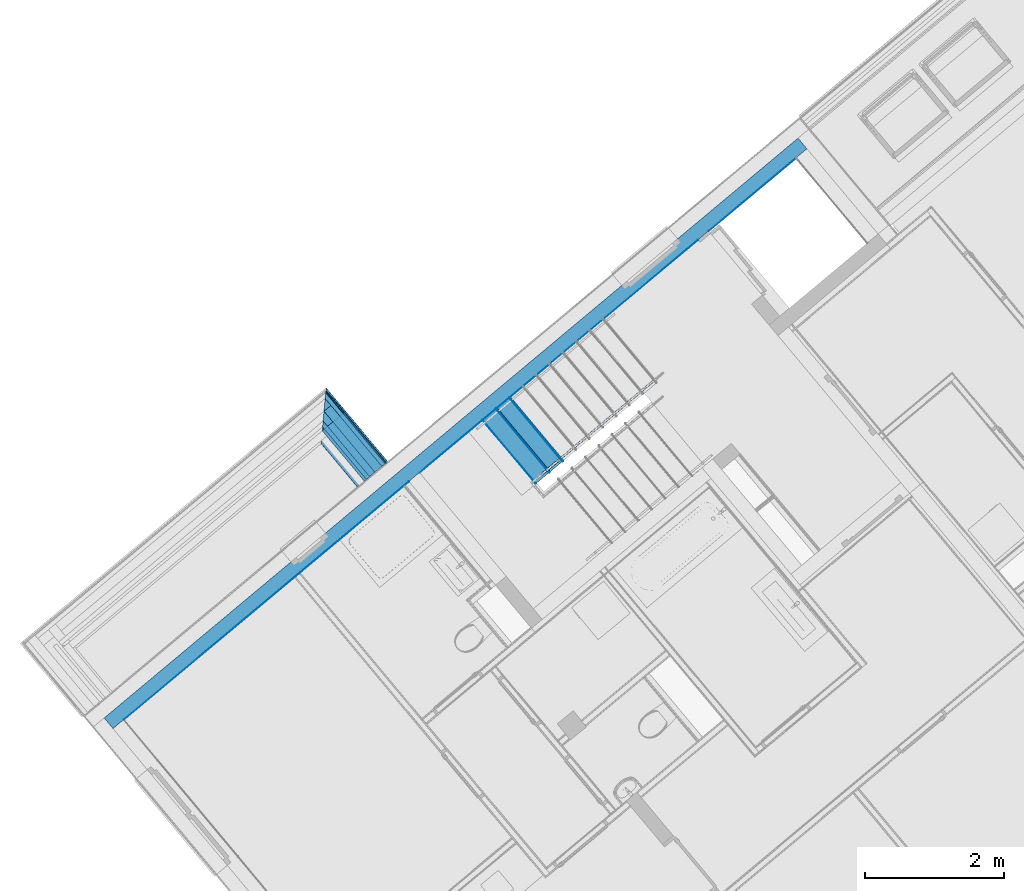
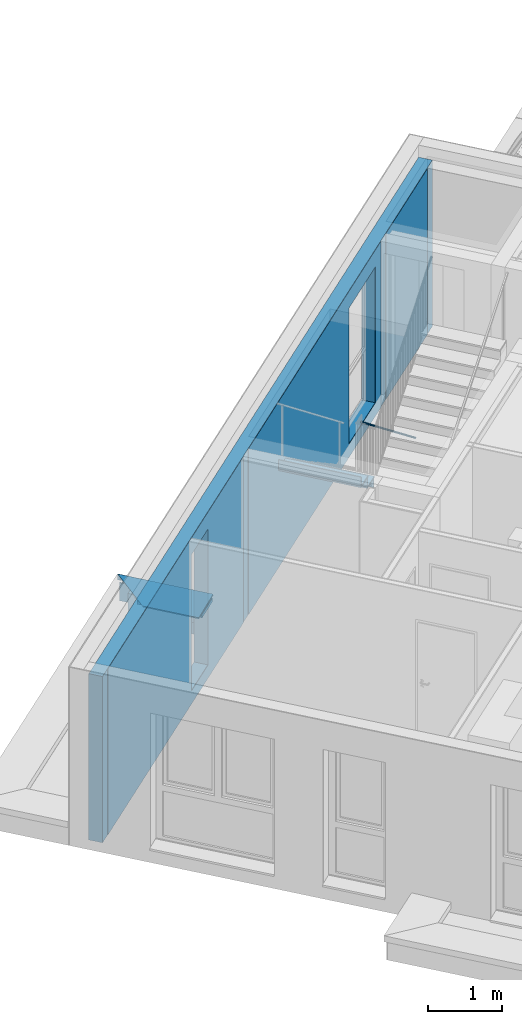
# One storey, part 32 of 58: 16 building element parts, 2 openings, 4 elements without a shape of their own.
"""IFC4 building model written with IfcOpenShell, lengths in metres."""

import ifcopenshell
import ifcopenshell.guid

model = None  # the IFC model being written
_history = None  # IfcOwnerHistory: only IFC2X3 demands one
_inside = {}  # id of a spatial element -> (the spatial element, [elements in it])
_under = {}  # id of a project, library or spatial element -> (it, [spatial elements below it])
_declared = {}  # id of a project -> (the project, [libraries it declares])
_typed = {}  # id of a type object -> (the type object, [elements of that type])
_made_of = {}  # id of a material, layer set ... -> (it, [elements and type objects made of it])


def new_model(schema):
    """Start an empty IFC model of exactly this schema.

    Asked for "IFC4X3", IfcOpenShell would pick the latest addendum, in which some entities
    have other attributes; the version numbers below select the first issue.
    IFC2X3 requires an IfcOwnerHistory on every rooted entity: one is made here for all.
    """
    global model, _history
    if schema == "IFC4X3":
        model = ifcopenshell.file(schema_version=(4, 3, 0, 0))
    else:
        model = ifcopenshell.file(schema=schema)
    _inside.clear()
    _under.clear()
    _declared.clear()
    _typed.clear()
    _made_of.clear()
    _history = None
    if model.schema == "IFC2X3":
        org = make("IfcOrganization", Name="unknown")
        user = make(
            "IfcPersonAndOrganization",
            ThePerson=make("IfcPerson", FamilyName="unknown"),
            TheOrganization=org,
        )
        app = make(
            "IfcApplication",
            ApplicationDeveloper=org,
            Version="unknown",
            ApplicationFullName="unknown",
            ApplicationIdentifier="unknown",
        )
        _history = make(
            "IfcOwnerHistory",
            OwningUser=user,
            OwningApplication=app,
            ChangeAction="ADDED",
            CreationDate=0,
        )
    return model


def make(cls, **values):
    """One entity of the class cls with the attributes given. An attribute that is None is left unset."""
    return model.create_entity(
        cls, **{name: value for name, value in values.items() if value is not None}
    )


def entity(cls, *values):
    """Any entity or typed value of the class cls, its attributes in the order of the schema. None: left unset."""
    e = model.create_entity(cls)
    for i, value in enumerate(values):
        if value is not None:
            e[i] = value
    return e


def rooted(cls, **values):
    """An entity with a GlobalId (a new one), such as an element, a storey or a relation."""
    return make(cls, GlobalId=ifcopenshell.guid.new(), OwnerHistory=_history, **values)


def si_unit(unit_type, name, prefix=None):
    """IfcSIUnit, for example si_unit("LENGTHUNIT", "METRE", prefix="MILLI")."""
    return make("IfcSIUnit", UnitType=unit_type, Prefix=prefix, Name=name)


def converted_unit(unit_type, name, factor, base, dimensions=None, offset=None):
    """IfcConversionBasedUnit, such as the inch: factor (a typed value) times the base unit."""
    return make(
        "IfcConversionBasedUnit"
        if offset is None
        else "IfcConversionBasedUnitWithOffset",
        ConversionOffset=offset,
        Dimensions=None
        if dimensions is None
        else entity("IfcDimensionalExponents", *dimensions),
        UnitType=unit_type,
        Name=name,
        ConversionFactor=make(
            "IfcMeasureWithUnit", ValueComponent=factor, UnitComponent=base
        ),
    )


def derived_unit(unit_type, elements):
    """IfcDerivedUnit: a product of units, each with its exponent."""
    return make(
        "IfcDerivedUnit",
        Elements=[
            make("IfcDerivedUnitElement", Unit=unit, Exponent=power)
            for unit, power in elements
        ],
        UnitType=unit_type,
    )


def assignment(units):
    """IfcUnitAssignment: the units of a project."""
    return None if units is None else make("IfcUnitAssignment", Units=units)


def point(xyz):
    """IfcCartesianPoint."""
    return None if xyz is None else make("IfcCartesianPoint", Coordinates=xyz)


def direction(xyz):
    """IfcDirection."""
    return None if xyz is None else make("IfcDirection", DirectionRatios=xyz)


def frame(location, z_axis=None, x_axis=None):
    """IfcAxis2Placement3D, a coordinate frame: its origin and axes. An axis left out is left unset."""
    return make(
        "IfcAxis2Placement3D",
        Location=point(location),
        Axis=direction(z_axis),
        RefDirection=direction(x_axis),
    )


def origin_with_axes():
    """The frame at (0, 0, 0) with the z axis (0, 0, 1) and the x axis (1, 0, 0) written out."""
    return frame((0.0, 0.0, 0.0), z_axis=(0.0, 0.0, 1.0), x_axis=(1.0, 0.0, 0.0))


def place(relative_to, where):
    """IfcLocalPlacement: puts the frame where relative to a parent placement (None: the world)."""
    return make(
        "IfcLocalPlacement", PlacementRelTo=relative_to, RelativePlacement=where
    )


def context(
    kind, dimensions, precision=None, world=None, true_north=None, identifier=None
):
    """IfcGeometricRepresentationContext, for example the 3D "Model" context."""
    return make(
        "IfcGeometricRepresentationContext",
        ContextIdentifier=identifier,
        ContextType=kind,
        CoordinateSpaceDimension=dimensions,
        Precision=precision,
        WorldCoordinateSystem=world,
        TrueNorth=true_north,
    )


def subcontext(parent, identifier, kind, view, scale=None):
    """IfcGeometricRepresentationSubContext, for example "Body" below "Model"."""
    return make(
        "IfcGeometricRepresentationSubContext",
        ContextIdentifier=identifier,
        ContextType=kind,
        ParentContext=parent,
        TargetScale=scale,
        TargetView=view,
    )


def project(units=None, contexts=None):
    """IfcProject with its units and contexts."""
    return rooted(
        "IfcProject",
        Name="project",
        RepresentationContexts=contexts,
        UnitsInContext=assignment(units),
    )


def spatial(cls, under=None, at=None, **own):
    """A site, building, storey or space (cls), placed at a placement, below another one or the project."""
    s = rooted(cls, ObjectPlacement=at, **own)
    if under is not None:
        _under.setdefault(under.id(), (under, []))[1].append(s)
    return s


def point_list(points):
    """IfcCartesianPointList2D or 3D."""
    cls = (
        "IfcCartesianPointList2D" if len(points[0]) == 2 else "IfcCartesianPointList3D"
    )
    return make(cls, CoordList=points)


def polygons(points, faces, closed=None, point_numbers=None):
    """IfcPolygonalFaceSet: a face is its outer loop, then its inner loops; points numbered from 1."""
    made = []
    for loops in faces:
        if len(loops) == 1:
            made.append(make("IfcIndexedPolygonalFace", CoordIndex=loops[0]))
        else:
            made.append(
                make(
                    "IfcIndexedPolygonalFaceWithVoids",
                    CoordIndex=loops[0],
                    InnerCoordIndices=loops[1:],
                )
            )
    return make(
        "IfcPolygonalFaceSet",
        Coordinates=point_list(points),
        Closed=closed,
        Faces=made,
        PnIndex=point_numbers,
    )


def shape(context_of_items, identifier, shape_type, items):
    """IfcShapeRepresentation: the items that make up one representation, for example the "Body"."""
    return make(
        "IfcShapeRepresentation",
        ContextOfItems=context_of_items,
        RepresentationIdentifier=identifier,
        RepresentationType=shape_type,
        Items=items,
    )


def material(Name=None, Category=None):
    """IfcMaterial."""
    return make("IfcMaterial", Name=Name, Category=Category)


def made_of(thing, what):
    """Note that an element or type object is made of a material, layer set ...; save() writes the relation."""
    if what is not None:
        _made_of.setdefault(what.id(), (what, []))[1].append(thing)
    return thing


def type_object(cls, material=None, **own):
    """A type object (cls), such as IfcWallType, which elements share."""
    return made_of(rooted(cls, **own), material)


def element(
    cls,
    number,
    at=None,
    inside=None,
    cuts=None,
    type_object=None,
    material=None,
    context=None,
    identifier="Body",
    shape_type=None,
    held_by="IfcProductDefinitionShape",
    body=None,
    shapes=None,
    **own,
):
    """One element of the class cls, such as IfcWall. Its Tag is "e" and its number.

    at: its placement. inside: the storey or other place that contains it. cuts: it is an
    opening in that element (IfcRelVoidsElement). A single representation is given by context,
    identifier, shape_type and body (its items); several are given by shapes. held_by: the class
    of the entity that holds the representations. save() writes the other relations.
    """
    e = rooted(cls, Tag="e%d" % number, ObjectPlacement=at, **own)
    if body is not None:
        shapes = [shape(context, identifier, shape_type, body)]
    if shapes is not None:
        e.Representation = make(held_by, Representations=shapes)
    if inside is not None:
        _inside.setdefault(inside.id(), (inside, []))[1].append(e)
    if cuts is not None:
        rooted(
            "IfcRelVoidsElement", RelatingBuildingElement=cuts, RelatedOpeningElement=e
        )
    if type_object is not None:
        _typed.setdefault(type_object.id(), (type_object, []))[1].append(e)
    return made_of(e, material)


def aggregate(whole, parts):
    """IfcRelAggregates: a whole, such as a stair, and the parts it consists of."""
    return rooted("IfcRelAggregates", RelatingObject=whole, RelatedObjects=parts)


def save(model, path):
    """Write the relations noted so far, then the file.

    IfcRelAggregates (storeys below a building ...), IfcRelContainedInSpatialStructure (elements
    in a storey), IfcRelDefinesByType, IfcRelAssociatesMaterial and IfcRelDeclares: one each for
    every whole, place, type object, material and project.
    """
    for whole, parts in _under.values():
        aggregate(whole, parts)
    for where, things in _inside.values():
        rooted(
            "IfcRelContainedInSpatialStructure",
            RelatedElements=things,
            RelatingStructure=where,
        )
    for kind, things in _typed.values():
        rooted("IfcRelDefinesByType", RelatedObjects=things, RelatingType=kind)
    for what, things in _made_of.values():
        rooted("IfcRelAssociatesMaterial", RelatedObjects=things, RelatingMaterial=what)
    for by, libraries in _declared.values():
        rooted("IfcRelDeclares", RelatingContext=by, RelatedDefinitions=libraries)
    model.write(path)


model = new_model("IFC4")

# Units and contexts
model_context = context("Model", 3, precision=1e-05, world=origin_with_axes(), true_north=direction((0.0, 1.0)))
body_context = subcontext(model_context, "Body", "Model", "MODEL_VIEW")
ifc_project = project(units=[si_unit("LENGTHUNIT", "METRE"), si_unit("AREAUNIT", "SQUARE_METRE"), si_unit("VOLUMEUNIT", "CUBIC_METRE"), converted_unit("PLANEANGLEUNIT", "DEGREE", entity("IfcPlaneAngleMeasure", 0.0174532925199), si_unit("PLANEANGLEUNIT", "RADIAN"), dimensions=[0, 0, 0, 0, 0, 0, 0]), converted_unit("TIMEUNIT", "Year", entity("IfcTimeMeasure", 31556926.0), si_unit("TIMEUNIT", "SECOND"), dimensions=[0, 0, 1, 0, 0, 0, 0]), si_unit("MASSUNIT", "GRAM", prefix="KILO"), si_unit("THERMODYNAMICTEMPERATUREUNIT", "DEGREE_CELSIUS"), si_unit("LUMINOUSINTENSITYUNIT", "LUMEN"), si_unit("ENERGYUNIT", "JOULE", prefix="MEGA"), derived_unit("THERMALCONDUCTANCEUNIT", [(si_unit("POWERUNIT", "WATT"), 1), (si_unit("LENGTHUNIT", "METRE"), -1), (si_unit("THERMODYNAMICTEMPERATUREUNIT", "KELVIN"), -1)]), derived_unit("SPECIFICHEATCAPACITYUNIT", [(si_unit("ENERGYUNIT", "JOULE"), 1), (si_unit("MASSUNIT", "GRAM", prefix="KILO"), -1), (si_unit("THERMODYNAMICTEMPERATUREUNIT", "KELVIN"), -1)]), derived_unit("MASSDENSITYUNIT", [(si_unit("MASSUNIT", "GRAM", prefix="KILO"), 1), (si_unit("VOLUMEUNIT", "CUBIC_METRE"), -1)])], contexts=[model_context])

# Site, building, storey
site_placement = place(None, frame((-0.00153261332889, -0.00661245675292, 0.0), z_axis=(0.0, 0.0, 1.0), x_axis=(1.0, 0.0, 0.0)))
site = spatial("IfcSite", under=ifc_project, at=site_placement, Name="Site", CompositionType="ELEMENT")
building_placement = place(site_placement, origin_with_axes())
building = spatial("IfcBuilding", under=site, at=building_placement, Name="Building", CompositionType="ELEMENT")
storey_placement = place(building_placement, frame((0.0, 0.0, 5.7), z_axis=(0.0, 0.0, 1.0), x_axis=(1.0, 0.0, 0.0)))
storey = spatial("IfcBuildingStorey", under=building, at=storey_placement, Name="DG1", CompositionType="ELEMENT", Elevation=5.7)

# Wall, openings, building element parts
wall_type_1 = type_object("IfcWallType", Name="AW EG 420", PredefinedType="NOTDEFINED")
wall_1_placement = place(storey_placement, frame((-8.68307438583, 19.0183290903, 0.0), z_axis=(0.0, 0.0, 1.0), x_axis=(0.767365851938, 0.641209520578, 0.0)))
wall_1 = element("IfcWall", 1, at=wall_1_placement, inside=storey, type_object=wall_type_1, Name="Wand-002", PredefinedType="NOTDEFINED")
opening_1_placement = place(wall_1_placement, frame((10.4679738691, 0.0, 0.22), z_axis=(0.0, 0.0, 1.0), x_axis=(1.0, 0.0, 0.0)))
element("IfcOpeningElement", 2, at=opening_1_placement, cuts=wall_1, Name="Fenster-001", context=body_context, identifier="Reference", shape_type="Tessellation", body=[
    polygons([(-0.525, -0.215, 0.0), (-0.525, -0.215, 2.26), (-0.525, 6.42322125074, 2.26), (-0.525, 6.42322125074, 0.0), (-0.525, -6.84322125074, 0.0), (-0.525, -6.84322125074, 2.26), (0.525, -0.215, 2.26), (0.525, 6.42322125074, 2.26), (0.525, -6.84322125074, 2.26), (0.525, 6.42322125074, 0.0), (0.525, -0.215, 0.0), (0.525, -6.84322125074, 0.0)], [[[1, 2, 3, 4]], [[2, 1, 5, 6]], [[7, 8, 3, 2, 6, 9]], [[8, 10, 4, 3]], [[1, 4, 10, 11, 12, 5]], [[6, 5, 12, 9]], [[7, 11, 10, 8]], [[11, 7, 9, 12]]], closed=True),
])
opening_2_placement = place(wall_1_placement, frame((4.0502535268, 0.0, 0.22), z_axis=(0.0, 0.0, 1.0), x_axis=(1.0, 0.0, 0.0)))
element("IfcOpeningElement", 3, at=opening_2_placement, cuts=wall_1, Name="Fenster-001", context=body_context, identifier="Reference", shape_type="Tessellation", body=[
    polygons([(-0.325, -0.215, 0.0), (-0.325, -0.215, 2.26), (-0.325, 6.42322125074, 2.26), (-0.325, 6.42322125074, 0.0), (-0.325, -6.84322125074, 0.0), (-0.325, -6.84322125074, 2.26), (0.325, -0.215, 2.26), (0.325, 6.42322125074, 2.26), (0.325, -6.84322125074, 2.26), (0.325, 6.42322125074, 0.0), (0.325, -0.215, 0.0), (0.325, -6.84322125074, 0.0)], [[[1, 2, 3, 4]], [[2, 1, 5, 6]], [[7, 8, 3, 2, 6, 9]], [[8, 10, 4, 3]], [[1, 4, 10, 11, 12, 5]], [[6, 5, 12, 9]], [[7, 11, 10, 8]], [[11, 7, 9, 12]]], closed=True),
])
ifc_material_1 = material(Name="Stahlbeton Wand")
building_element_part_1_placement = place(wall_1_placement, origin_with_axes())
building_element_part_1 = element("IfcBuildingElementPart", 4, at=building_element_part_1_placement, material=ifc_material_1, Name="Stahlbeton Wand", PredefinedType="NOTDEFINED", context=body_context, shape_type="Tessellation", body=[
    polygons([(0.215, -0.215, 0.0), (0.215, -0.215, 2.76), (13.2571716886, -0.215000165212, 2.76), (13.2571733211, -0.215, 0.0), (10.9929738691, -0.215, 0.22), (10.9929738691, -0.215, 2.48), (9.94297386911, -0.215, 2.48), (9.94297386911, -0.215, 0.22), (3.7252535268, -0.215, 0.22), (4.3752535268, -0.215, 0.22), (4.3752535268, -0.215, 2.48), (3.7252535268, -0.215, 2.48), (0.215, -0.415, 0.0), (0.215, -0.415, 2.76), (13.2571716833, -0.415, 2.76), (13.2571733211, -0.415, 0.0), (10.9929738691, -0.415, 2.48), (10.9929738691, -0.415, 0.22), (9.94297386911, -0.415, 2.48), (9.94297386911, -0.415, 0.22), (3.7252535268, -0.415, 0.22), (4.3752535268, -0.415, 0.22), (4.3752535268, -0.415, 2.48), (3.7252535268, -0.415, 2.48)], [[[1, 2, 3, 4], [5, 6, 7, 8], [9, 10, 11, 12]], [[1, 13, 14, 2]], [[14, 15, 3, 2]], [[16, 4, 3, 15]], [[13, 1, 4, 16]], [[17, 6, 5, 18]], [[19, 7, 6, 17]], [[20, 8, 7, 19]], [[18, 5, 8, 20]], [[21, 22, 10, 9]], [[22, 23, 11, 10]], [[23, 24, 12, 11]], [[24, 21, 9, 12]], [[16, 15, 14, 13], [19, 17, 18, 20], [21, 24, 23, 22]]], closed=True),
])
ifc_material_2 = material(Name="Zementputz")
building_element_part_2_placement = place(wall_1_placement, origin_with_axes())
building_element_part_2 = element("IfcBuildingElementPart", 5, at=building_element_part_2_placement, material=ifc_material_2, Name="Zementputz", PredefinedType="NOTDEFINED", context=body_context, shape_type="Tessellation", body=[
    polygons([(5.77520574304, -0.415, 2.76), (5.77520574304, -0.415, 0.0), (0.415, -0.415, 0.0), (0.415, -0.415, 2.76), (3.7252535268, -0.415, 0.22), (4.3752535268, -0.415, 0.22), (4.3752535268, -0.415, 2.48), (3.7252535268, -0.415, 2.48), (5.77520574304, -0.42, 0.0), (5.77520574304, -0.42, 2.76), (0.415, -0.42, 0.0), (0.415, -0.42, 2.76), (3.7252535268, -0.42, 0.22), (4.3752535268, -0.42, 0.22), (4.3752535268, -0.42, 2.48), (3.7252535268, -0.42, 2.48)], [[[1, 2, 3, 4], [5, 6, 7, 8]], [[9, 2, 1, 10]], [[11, 3, 2, 9]], [[4, 3, 11, 12]], [[1, 4, 12, 10]], [[13, 14, 6, 5]], [[14, 15, 7, 6]], [[15, 16, 8, 7]], [[16, 13, 5, 8]], [[11, 9, 10, 12], [13, 16, 15, 14]]], closed=True),
    polygons([(11.2076041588, -0.415, 0.0), (5.97520574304, -0.415, 0.0), (5.97520574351, -0.415, 2.76), (11.2076041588, -0.415, 2.76), (9.94297386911, -0.415, 0.22), (10.9929738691, -0.415, 0.22), (10.9929738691, -0.415, 2.48), (9.94297386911, -0.415, 2.48), (11.2076038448, -0.42, 0.0), (5.97520574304, -0.42, 0.0), (5.97520574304, -0.42, 2.76), (9.19449154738, -0.419999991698, 2.76), (11.2076038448, -0.42, 2.76), (9.94297386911, -0.419999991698, 0.22), (10.9929738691, -0.419999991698, 0.22), (10.9929738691, -0.419999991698, 2.48), (9.94297386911, -0.419999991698, 2.48)], [[[1, 2, 3, 4], [5, 6, 7, 8]], [[1, 9, 10, 2]], [[11, 3, 2, 10]], [[11, 12, 13, 4, 3]], [[1, 4, 13, 9]], [[14, 15, 6, 5]], [[15, 16, 7, 6]], [[16, 17, 8, 7]], [[17, 14, 5, 8]], [[10, 9, 13, 12, 11], [14, 17, 16, 15]]], closed=True),
    polygons([(13.0571733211, -0.415, 2.76), (13.0571733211, -0.42, 2.76), (13.0571733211, -0.42, 0.0), (13.0571733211, -0.415, 0.0), (13.0521733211, -0.42, 2.76), (11.4076067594, -0.415, 2.76), (11.4076038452, -0.42, 2.76), (11.4076038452, -0.42, 0.0), (11.4076041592, -0.415, 0.0)], [[[1, 2, 3, 4]], [[5, 2, 1, 6, 7]], [[5, 7, 8, 3, 2]], [[8, 9, 4, 3]], [[6, 1, 4, 9]], [[7, 6, 9, 8]]], closed=True),
])
aggregate(wall_1, [building_element_part_1, building_element_part_2])

# Railing, building element part
railing_type = type_object("IfcRailingType", Name="Geländerart", PredefinedType="NOTDEFINED")
railing_placement = place(storey_placement, frame((-0.398547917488, 23.8355657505, 0.05), z_axis=(0.0, 0.0, 1.0), x_axis=(1.0, 0.0, 0.0)))
railing = element("IfcRailing", 6, at=railing_placement, inside=storey, type_object=railing_type, Name="Geländer - 001", PredefinedType="NOTDEFINED")
ifc_material_3 = material(Name="BEKLEIDUNG")
building_element_part_3_placement = place(railing_placement, origin_with_axes())
building_element_part_3 = element("IfcBuildingElementPart", 7, at=building_element_part_3_placement, material=ifc_material_3, Name="BEKLEIDUNG", PredefinedType="NOTDEFINED", context=body_context, shape_type="Tessellation", body=[
    polygons([(-0.0295187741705, 0.0209453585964, 0.88817063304), (-0.0284358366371, 0.0221471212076, 0.890224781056), (-1.65968848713, -1.34078287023, 2.5475849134), (-1.66154123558, -1.34262781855, 2.54631289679), (-0.0308939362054, 0.0200933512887, 0.886116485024), (-0.0325195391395, 0.0196169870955, 0.884124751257), (-0.03434618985, 0.0195307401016, 0.88225594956), (-0.0363183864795, 0.0198372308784, 0.880566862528), (-0.0383762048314, 0.0205271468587, 0.879108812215), (-0.0404571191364, 0.0215795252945, 0.877926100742), (-0.0424979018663, 0.0229623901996, 0.877054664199), (-0.0444365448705, 0.0246337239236, 0.876520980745), (-0.0462141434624, 0.026542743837, 0.87634126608), (-0.0477766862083, 0.0286314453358, 0.876520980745), (-0.0490766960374, 0.030836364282, 0.877054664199), (-0.0500746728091, 0.0330905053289, 0.877926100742), (-0.050740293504, 0.0353253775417, 0.879108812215), (-0.0510533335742, 0.0374730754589, 0.880566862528), (-0.0510042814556, 0.0394683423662, 0.88225594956), (-0.0505946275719, 0.0412505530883, 0.884124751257), (-0.0498368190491, 0.0427655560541, 0.886116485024), (-0.0487538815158, 0.0439673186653, 0.88817063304), (-0.0473787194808, 0.0448193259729, 0.890224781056), (-0.0457531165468, 0.0452956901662, 0.892216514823), (-0.0439264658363, 0.04538193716, 0.89408531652), (-0.0419542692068, 0.0450754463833, 0.895774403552), (-0.0398964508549, 0.044385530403, 0.897232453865), (-0.0378155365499, 0.0433331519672, 0.898415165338), (-0.03577475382, 0.0419502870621, 0.899286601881), (-0.0338361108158, 0.0402789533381, 0.899820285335), (-0.0320585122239, 0.0383699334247, 0.9), (-0.030495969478, 0.0362812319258, 0.899820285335), (-0.0291959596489, 0.0340763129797, 0.899286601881), (-0.0281979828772, 0.0318221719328, 0.898415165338), (-0.0275323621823, 0.02958729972, 0.897232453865), (-0.0272193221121, 0.0274396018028, 0.895774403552), (-0.0272683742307, 0.0254443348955, 0.89408531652), (-0.0276780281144, 0.0236621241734, 0.892216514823), (-1.658184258, -1.33864422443, 2.54881828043), (-1.65707425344, -1.33627686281, 2.54997552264), (-1.65639220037, -1.33375271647, 2.55102147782), (-1.65615882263, -1.33114848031, 2.55192436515), (-1.65638121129, -1.32854328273, 2.55265675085), (-1.65705260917, -1.32601628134, 2.55319638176), (-1.6581526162, -1.3236442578, 2.55352686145), (-1.65964780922, -1.32149928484, 2.55363814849), (-1.66149275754, -1.31964653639, 2.55352686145), (-1.66363140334, -1.31814230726, 2.55319638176), (-1.66599876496, -1.31703230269, 2.55265675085), (-1.6685229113, -1.31635024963, 2.55192436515), (-1.67112714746, -1.31611687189, 2.55102147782), (-1.67373234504, -1.31633926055, 2.54997552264), (-1.67625934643, -1.31701065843, 2.54881828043), (-1.67863136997, -1.31811066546, 2.5475849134), (-1.68077634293, -1.31960585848, 2.54631289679), (-1.68262909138, -1.3214508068, 2.54504088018), (-1.68413332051, -1.3235894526, 2.54380751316), (-1.68524332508, -1.32595681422, 2.54265027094), (-1.68592537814, -1.32848096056, 2.54160431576), (-1.68615875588, -1.33108519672, 2.54070142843), (-1.68593636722, -1.3336903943, 2.53996904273), (-1.68526496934, -1.33621739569, 2.53942941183), (-1.68416496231, -1.33858941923, 2.53909893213), (-1.68266976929, -1.34073439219, 2.53898764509), (-1.68082482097, -1.34258714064, 2.53909893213), (-1.67868617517, -1.34409136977, 2.53942941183), (-1.67631881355, -1.34520137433, 2.53996904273), (-1.67379466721, -1.3458834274, 2.54070142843), (-1.67119043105, -1.34611680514, 2.54160431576), (-1.66858523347, -1.34589441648, 2.54265027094), (-1.66605823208, -1.3452230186, 2.54380751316), (-1.66368620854, -1.34412301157, 2.54504088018)], [[[1, 2, 3, 4]], [[1, 5, 6, 7, 8, 9, 10, 11, 12, 13, 14, 15, 16, 17, 18, 19, 20, 21, 22, 23, 24, 25, 26, 27, 28, 29, 30, 31, 32, 33, 34, 35, 36, 37, 38, 2]], [[2, 38, 39, 3]], [[4, 3, 39, 40, 41, 42, 43, 44, 45, 46, 47, 48, 49, 50, 51, 52, 53, 54, 55, 56, 57, 58, 59, 60, 61, 62, 63, 64, 65, 66, 67, 68, 69, 70, 71, 72]], [[5, 1, 4, 72]], [[6, 5, 72, 71]], [[7, 6, 71, 70]], [[8, 7, 70, 69]], [[9, 8, 69, 68]], [[10, 9, 68, 67]], [[11, 10, 67, 66]], [[12, 11, 66, 65]], [[13, 12, 65, 64]], [[14, 13, 64, 63]], [[15, 14, 63, 62]], [[16, 15, 62, 61]], [[17, 16, 61, 60]], [[18, 17, 60, 59]], [[19, 18, 59, 58]], [[20, 19, 58, 57]], [[21, 20, 57, 56]], [[22, 21, 56, 55]], [[23, 22, 55, 54]], [[24, 23, 54, 53]], [[25, 24, 53, 52]], [[26, 25, 52, 51]], [[27, 26, 51, 50]], [[28, 27, 50, 49]], [[29, 28, 49, 48]], [[30, 29, 48, 47]], [[31, 30, 47, 46]], [[32, 31, 46, 45]], [[33, 32, 45, 44]], [[34, 33, 44, 43]], [[35, 34, 43, 42]], [[36, 35, 42, 41]], [[37, 36, 41, 40]], [[38, 37, 40, 39]]], closed=True),
])
aggregate(railing, [building_element_part_3])

# Stair, building element parts
stair_type = type_object("IfcStairType", Name="Treppentyp", PredefinedType="NOTDEFINED")
stair_placement = place(storey_placement, frame((-0.972083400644, 24.9200947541, 0.05), z_axis=(0.0, 0.0, 1.0), x_axis=(1.0, 0.0, 0.0)))
stair = element("IfcStair", 8, at=stair_placement, inside=storey, type_object=stair_type, Name="Treppe - 001", PredefinedType="NOTDEFINED")
building_element_part_4_placement = place(stair_placement, origin_with_axes())
building_element_part_4 = element("IfcBuildingElementPart", 9, at=building_element_part_4_placement, material=ifc_material_3, Name="BEKLEIDUNG", PredefinedType="NOTDEFINED", context=body_context, shape_type="Tessellation", body=[
    polygons([(-1.55940773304, -1.30290275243, 1.39147058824), (-1.56708171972, -1.30931445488, 1.39147058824), (-0.797677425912, -2.23019285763, 1.39147058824), (-0.790003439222, -2.22378115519, 1.39147058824), (-1.55940773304, -1.30290275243, 1.23941176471), (-1.56708171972, -1.30931445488, 1.23941176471), (-0.797677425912, -2.23019285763, 1.23941176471), (-0.790003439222, -2.22378115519, 1.23941176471)], [[[1, 2, 3, 4]], [[1, 5, 6, 2]], [[2, 6, 7, 3]], [[4, 3, 7, 8]], [[5, 1, 4, 8]], [[6, 5, 8, 7]]], closed=True),
])
building_element_part_5_placement = place(stair_placement, origin_with_axes())
building_element_part_5 = element("IfcBuildingElementPart", 10, at=building_element_part_5_placement, material=ifc_material_3, Name="BEKLEIDUNG", PredefinedType="NOTDEFINED", context=body_context, shape_type="Tessellation", body=[
    polygons([(-1.75255458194, -1.46427912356, 1.56852941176), (-1.76022856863, -1.47069082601, 1.56852941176), (-0.990824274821, -2.39156922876, 1.56852941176), (-0.983150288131, -2.38515752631, 1.56852941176), (-1.75255458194, -1.46427912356, 1.41647058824), (-1.76022856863, -1.47069082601, 1.41647058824), (-0.990824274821, -2.39156922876, 1.41647058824), (-0.983150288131, -2.38515752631, 1.41647058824)], [[[1, 2, 3, 4]], [[1, 5, 6, 2]], [[2, 6, 7, 3]], [[4, 3, 7, 8]], [[5, 1, 4, 8]], [[6, 5, 8, 7]]], closed=True),
])
building_element_part_6_placement = place(stair_placement, origin_with_axes())
building_element_part_6 = element("IfcBuildingElementPart", 11, at=building_element_part_6_placement, material=ifc_material_3, Name="BEKLEIDUNG", PredefinedType="NOTDEFINED", context=body_context, shape_type="Tessellation", body=[
    polygons([(-1.94570143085, -1.62565549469, 1.74558823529), (-1.95337541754, -1.63206719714, 1.74558823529), (-1.18397112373, -2.55294559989, 1.74558823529), (-1.17629713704, -2.54653389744, 1.74558823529), (-1.94570143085, -1.62565549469, 1.59352941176), (-1.95337541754, -1.63206719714, 1.59352941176), (-1.18397112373, -2.55294559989, 1.59352941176), (-1.17629713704, -2.54653389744, 1.59352941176)], [[[1, 2, 3, 4]], [[1, 5, 6, 2]], [[2, 6, 7, 3]], [[4, 3, 7, 8]], [[5, 1, 4, 8]], [[6, 5, 8, 7]]], closed=True),
])
building_element_part_7_placement = place(stair_placement, origin_with_axes())
building_element_part_7 = element("IfcBuildingElementPart", 12, at=building_element_part_7_placement, material=ifc_material_3, Name="BEKLEIDUNG", PredefinedType="NOTDEFINED", context=body_context, shape_type="Tessellation", body=[
    polygons([(-0.778492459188, -2.21416360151, 1.39147058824), (-1.547896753, -1.29328519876, 1.39147058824), (-1.547896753, -1.29328519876, 1.41647058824), (-0.778492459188, -2.21416360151, 1.41647058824), (-0.99082427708, -2.39156923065, 1.39147058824), (-1.76022856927, -1.47069082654, 1.39147058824), (-1.76022856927, -1.47069082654, 1.41647058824), (-0.99082427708, -2.39156923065, 1.41647058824)], [[[1, 2, 3, 4]], [[1, 5, 6, 2]], [[2, 6, 7, 3]], [[4, 3, 7, 8]], [[5, 1, 4, 8]], [[6, 5, 8, 7]]], closed=True),
])
building_element_part_8_placement = place(stair_placement, origin_with_axes())
building_element_part_8 = element("IfcBuildingElementPart", 13, at=building_element_part_8_placement, material=ifc_material_3, Name="BEKLEIDUNG", PredefinedType="NOTDEFINED", context=body_context, shape_type="Tessellation", body=[
    polygons([(-0.971639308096, -2.37553997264, 1.56852941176), (-1.74104360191, -1.45466156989, 1.56852941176), (-1.74104360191, -1.45466156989, 1.59352941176), (-0.971639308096, -2.37553997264, 1.59352941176), (-1.16478615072, -2.53691633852, 1.56852941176), (-1.18397113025, -2.55294559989, 1.56852941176), (-1.95337541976, -1.63206719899, 1.56852941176), (-1.93419045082, -1.61603794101, 1.56852941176), (-1.93419045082, -1.61603794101, 1.59352941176), (-1.95337541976, -1.63206719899, 1.59352941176), (-1.18397113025, -2.55294559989, 1.59352941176), (-1.16478615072, -2.53691633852, 1.59352941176)], [[[1, 2, 3, 4]], [[1, 5, 6, 7, 8, 2]], [[2, 8, 9, 3]], [[4, 3, 9, 10, 11, 12]], [[5, 1, 4, 12]], [[6, 5, 12, 11]], [[7, 6, 11, 10]], [[8, 7, 10, 9]]], closed=True),
])
aggregate(stair, [building_element_part_4, building_element_part_5, building_element_part_6, building_element_part_7, building_element_part_8])

# Wall, building element parts
wall_type_2 = type_object("IfcWallType", Name="Bauteil - Attika Terrasse 1.DG 574 x 410", PredefinedType="NOTDEFINED")
wall_2_placement = place(storey_placement, frame((-5.20937569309, 23.4149390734, -0.2), z_axis=(0.0, 0.0, 1.0), x_axis=(0.641209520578, -0.767365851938, 0.0)))
wall_2 = element("IfcWall", 14, at=wall_2_placement, inside=storey, type_object=wall_type_2, Name="Wand-005", PredefinedType="NOTDEFINED")
building_element_part_9_placement = place(wall_2_placement, origin_with_axes())
building_element_part_9 = element("IfcBuildingElementPart", 15, at=building_element_part_9_placement, material=ifc_material_2, Name="Zementputz", PredefinedType="NOTDEFINED", context=body_context, shape_type="Tessellation", body=[
    polygons([(-0.199999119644, 0.214999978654, 0.498822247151), (-0.199999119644, 0.214999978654, 0.499999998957), (1.14643969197, 0.214999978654, 0.499999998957), (1.14643969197, 0.214999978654, 0.2), (-0.199999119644, 0.214999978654, 0.2), (-0.199999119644, 0.214999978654, 0.335), (-0.199999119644, 0.214999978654, 0.488695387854), (-0.199999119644, 0.214999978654, 0.49100648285), (-0.199999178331, 0.199999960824, 0.499999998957), (-0.199999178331, 0.199999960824, 0.498822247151), (1.14643969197, 0.199999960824, 0.499999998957), (1.14643969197, 0.199999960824, 0.2), (-0.199999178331, 0.199999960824, 0.2), (-0.199999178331, 0.199999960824, 0.335), (-0.199999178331, 0.199999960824, 0.488695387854), (-0.199999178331, 0.199999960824, 0.49100648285)], [[[1, 2, 3, 4, 5, 6, 7, 8]], [[9, 2, 1, 10]], [[2, 9, 11, 3]], [[4, 3, 11, 12]], [[13, 5, 4, 12]], [[14, 6, 5, 13]], [[15, 7, 6, 14]], [[16, 8, 7, 15]], [[10, 1, 8, 16]], [[9, 10, 16, 15, 14, 13, 12, 11]]], closed=True),
])
ifc_material_4 = material(Name="Vollholz")
building_element_part_10_placement = place(wall_2_placement, origin_with_axes())
building_element_part_10 = element("IfcBuildingElementPart", 16, at=building_element_part_10_placement, material=ifc_material_4, Name="Vollholz", PredefinedType="NOTDEFINED", context=body_context, shape_type="Tessellation", body=[
    polygons([(-0.130124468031, 0.130124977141, 0.584015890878), (-0.130124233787, 0.189996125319, 0.584015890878), (-0.130124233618, 0.190039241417, 0.575979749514), (-0.130124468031, 0.130124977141, 0.575979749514), (-0.189984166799, 0.189984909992, 0.586106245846), (1.14643969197, 0.189984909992, 0.586106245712), (1.14643969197, 0.190124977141, 0.560000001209), (-0.130124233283, 0.190124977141, 0.560000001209), (-0.13012423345, 0.190082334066, 0.567947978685), (-0.130124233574, 0.190050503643, 0.573880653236), (-0.130124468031, 0.130124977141, 0.573880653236), (-0.130124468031, 0.130124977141, 0.560000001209), (1.14643969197, 0.130124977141, 0.560000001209), (1.14643969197, 0.130124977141, 0.584015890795), (-0.130124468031, 0.130124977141, 0.567947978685)], [[[1, 2, 3, 4]], [[5, 2, 1]], [[2, 5, 6, 7, 8, 9, 10, 3]], [[3, 10, 11, 4]], [[12, 13, 14, 1, 4, 11, 15]], [[5, 1, 14, 6]], [[14, 13, 7, 6]], [[12, 8, 7, 13]], [[12, 15, 9, 8]], [[9, 15, 11, 10]]], closed=True),
])
ifc_material_5 = material(Name="EPS 1")
building_element_part_11_placement = place(wall_2_placement, origin_with_axes())
building_element_part_11 = element("IfcBuildingElementPart", 17, at=building_element_part_11_placement, material=ifc_material_5, Name="EPS 1", PredefinedType="NOTDEFINED", context=body_context, shape_type="Tessellation", body=[
    polygons([(7.82254616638e-07, 0.19999996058, 0.498822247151), (7.82254616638e-07, 0.19999996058, 0.499999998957), (1.14643969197, 0.19999996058, 0.499999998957), (1.14643969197, 0.19999996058, 0.2), (7.82254616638e-07, 0.19999996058, 0.2), (7.82254616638e-07, 0.19999996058, 0.335), (7.82254616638e-07, 0.19999996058, 0.488695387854), (7.82254616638e-07, 0.19999996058, 0.49100648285), (-2.39907649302e-10, 2.39907649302e-10, 0.499999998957), (-2.39911202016e-10, 2.39911202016e-10, 0.498822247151), (1.14643969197, 2.39911202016e-10, 0.499999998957), (1.14643969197, 2.39911202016e-10, 0.2), (-2.39907649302e-10, 2.39911202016e-10, 0.2), (-2.39911202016e-10, 2.39911202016e-10, 0.335), (-2.39911202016e-10, 2.39911202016e-10, 0.488695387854), (-2.39911202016e-10, 2.39911202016e-10, 0.49100648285)], [[[1, 2, 3, 4, 5, 6, 7, 8]], [[9, 2, 1, 10]], [[2, 9, 11, 3]], [[12, 4, 3, 11]], [[13, 5, 4, 12]], [[14, 6, 5, 13]], [[15, 7, 6, 14]], [[16, 8, 7, 15]], [[10, 1, 8, 16]], [[9, 10, 16, 15, 14, 13, 12, 11]]], closed=True),
])
ifc_material_6 = material(Name="Brettschichtholz")
building_element_part_12_placement = place(wall_2_placement, origin_with_axes())
building_element_part_12 = element("IfcBuildingElementPart", 18, at=building_element_part_12_placement, material=ifc_material_6, Name="Brettschichtholz", PredefinedType="NOTDEFINED", context=body_context, shape_type="Tessellation", body=[
    polygons([(0.200000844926, 0.214999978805, 0.519224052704), (0.200000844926, 0.214999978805, 0.559999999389), (1.14643969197, 0.214999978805, 0.559999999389), (1.14643969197, 0.214999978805, 0.499999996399), (0.200000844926, 0.214999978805, 0.500000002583), (0.200000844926, 0.214999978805, 0.50905023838), (0.200000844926, 0.214999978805, 0.511361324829), (0.200000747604, 0.190124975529, 0.559999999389), (0.19999922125, -0.200000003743, 0.519224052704), (0.19999922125, -0.200000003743, 0.559999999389), (0.199999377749, -0.159999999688, 0.559999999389), (0.199999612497, -0.100000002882, 0.559999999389), (0.200000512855, 0.130124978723, 0.559999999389), (1.14643969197, 0.190124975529, 0.559999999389), (1.14643969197, -0.200000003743, 0.500000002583), (1.14643969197, 0.130124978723, 0.559999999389), (1.14643969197, -0.100000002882, 0.559999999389), (1.14643969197, -0.159999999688, 0.559999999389), (1.14643969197, -0.200000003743, 0.559999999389), (0.19999922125, -0.200000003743, 0.500000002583), (0.19999922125, -0.200000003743, 0.50905023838), (0.19999922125, -0.200000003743, 0.511361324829)], [[[1, 2, 3, 4, 5, 6, 7]], [[8, 2, 1, 9, 10, 11, 12, 13]], [[2, 8, 14, 3]], [[15, 4, 3, 14, 16, 17, 18, 19]], [[20, 5, 4, 15]], [[21, 6, 5, 20]], [[22, 7, 6, 21]], [[9, 1, 7, 22]], [[10, 9, 22, 21, 20, 15, 19]], [[11, 10, 19, 18]], [[12, 11, 18, 17]], [[13, 12, 17, 16]], [[8, 13, 16, 14]]], closed=True),
])
ifc_material_7 = material(Name="Stahlbeton")
building_element_part_13_placement = place(wall_2_placement, origin_with_axes())
building_element_part_13 = element("IfcBuildingElementPart", 19, at=building_element_part_13_placement, material=ifc_material_7, Name="Stahlbeton", PredefinedType="NOTDEFINED", context=body_context, shape_type="Tessellation", body=[
    polygons([(0.199999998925, -1.82835790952e-09, 0.498822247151), (0.199999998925, -1.82835613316e-09, 0.500000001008), (1.14643969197, -1.82835613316e-09, 0.500000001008), (1.14643969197, -1.82835613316e-09, 0.2), (0.199999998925, -1.82835613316e-09, 0.2), (0.199999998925, -1.82835790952e-09, 0.335), (0.199999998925, -1.82835790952e-09, 0.488695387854), (0.199999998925, -1.82835790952e-09, 0.49100648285), (0.199999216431, -0.199999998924, 0.500000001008), (0.199999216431, -0.199999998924, 0.498822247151), (1.14643969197, -0.199999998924, 0.500000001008), (1.14643969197, -0.199999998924, 0.2), (1.14643969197, -0.199999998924, 0.335000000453), (0.199999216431, -0.199999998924, 0.2), (0.199999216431, -0.199999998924, 0.335), (0.199999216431, -0.199999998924, 0.488695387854), (0.199999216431, -0.199999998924, 0.49100648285)], [[[1, 2, 3, 4, 5, 6, 7, 8]], [[9, 2, 1, 10]], [[2, 9, 11, 3]], [[12, 4, 3, 11, 13]], [[14, 5, 4, 12]], [[15, 6, 5, 14]], [[16, 7, 6, 15]], [[17, 8, 7, 16]], [[10, 1, 8, 17]], [[9, 10, 17, 16, 15, 13, 11]], [[15, 14, 12, 13]]], closed=True),
])
building_element_part_14_placement = place(wall_2_placement, origin_with_axes())
building_element_part_14 = element("IfcBuildingElementPart", 20, at=building_element_part_14_placement, material=ifc_material_4, Name="Vollholz", PredefinedType="NOTDEFINED", context=body_context, shape_type="Tessellation", body=[
    polygons([(0.160109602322, -0.160110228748, 0.573880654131), (0.160109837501, -0.1, 0.573880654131), (0.160062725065, -0.1, 0.567947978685), (0.16006249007, -0.160063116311, 0.567947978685), (0.0999996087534, -0.1, 0.575979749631), (1.14643969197, -0.1, 0.575979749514), (1.14643969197, -0.1, 0.560000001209), (0.159999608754, -0.1, 0.560000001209), (0.159999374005, -0.16, 0.560000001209), (1.14643969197, -0.16, 0.560000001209), (1.14643969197, -0.160110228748, 0.573880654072)], [[[1, 2, 3, 4]], [[5, 2, 1]], [[2, 5, 6, 7, 8, 3]], [[4, 3, 8, 9]], [[1, 4, 9, 10, 11]], [[5, 1, 11, 6]], [[11, 10, 7, 6]], [[9, 8, 7, 10]]], closed=True),
])
ifc_material_8 = material(Name="Holzwerkstoff")
building_element_part_15_placement = place(wall_2_placement, origin_with_axes())
building_element_part_15 = element("IfcBuildingElementPart", 21, at=building_element_part_15_placement, material=ifc_material_8, Name="Holzwerkstoff", PredefinedType="NOTDEFINED", context=body_context, shape_type="Tessellation", body=[
    polygons([(0.329998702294, -0.329999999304, 0.567947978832), (0.330205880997, -0.330207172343, 0.573880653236), (0.33020654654, -0.160110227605, 0.573880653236), (0.330559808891, -0.330561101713, 0.584015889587), (0.330279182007, -0.330280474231, 0.57597974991), (1.14643969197, -0.329999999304, 0.567947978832), (1.14643969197, -0.330698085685, 0.587938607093), (0.33069679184, -0.330698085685, 0.587938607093), (0.330632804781, -0.330634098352, 0.586106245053), (0.330280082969, -0.100000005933, 0.575979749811), (1.14643969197, -0.160110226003, 0.573880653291), (0.330561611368, 0.130124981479, 0.584015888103), (1.14643969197, -0.100000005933, 0.575979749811), (1.14643969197, 0.130124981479, 0.584015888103), (1.14643969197, 0.189984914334, 0.586106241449), (1.14643969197, 0.239999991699, 0.587852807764), (1.14643969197, 0.239276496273, 0.608570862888), (-0.239275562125, 0.239276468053, 0.608570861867), (0.33069902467, 0.2399969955, 0.587938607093), (0.330696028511, 0.239999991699, 0.587852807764), (0.330634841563, 0.189984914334, 0.586106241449)], [[[1, 2, 3]], [[4, 5, 2, 1, 6, 7, 8, 9]], [[2, 5, 10, 3]], [[1, 3, 11, 6]], [[5, 4, 12, 10]], [[7, 6, 11, 13, 14, 15, 16, 17]], [[18, 8, 7, 17]], [[9, 8, 19, 20, 21]], [[4, 9, 21, 12]], [[3, 10, 13, 11]], [[10, 12, 14, 13]], [[12, 21, 15, 14]], [[21, 20, 16, 15]], [[19, 18, 17, 16, 20]], [[8, 18, 19]]], closed=True),
])
ifc_material_9 = material(Name="Stahl")
building_element_part_16_placement = place(wall_2_placement, origin_with_axes())
building_element_part_16 = element("IfcBuildingElementPart", 22, at=building_element_part_16_placement, material=ifc_material_9, Name="Stahl", PredefinedType="NOTDEFINED", context=body_context, shape_type="Tessellation", body=[
    polygons([(0.332050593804, -0.332051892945, 0.49100648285), (0.332050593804, -0.332051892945, 0.498822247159), (0.3320505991, -0.330698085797, 0.498822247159), (0.3320505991, -0.330698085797, 0.49100648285), (0.332050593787, -0.332051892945, 0.489652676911), (1.14643969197, -0.332051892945, 0.489652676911), (1.14643969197, -0.332051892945, 0.589243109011), (0.332050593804, -0.332051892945, 0.589243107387), (0.332050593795, -0.332051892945, 0.587937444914), (0.332050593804, -0.332051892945, 0.586106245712), (0.332050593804, -0.332051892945, 0.584015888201), (0.332050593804, -0.332051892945, 0.575979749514), (0.332050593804, -0.332051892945, 0.573880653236), (0.332050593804, -0.332051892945, 0.567947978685), (0.332050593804, -0.332051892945, 0.559999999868), (0.332050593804, -0.332051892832, 0.519224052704), (0.332050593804, -0.332051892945, 0.511361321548), (0.332050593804, -0.332051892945, 0.50905024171), (0.332050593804, -0.332051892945, 0.499999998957), (0.3320505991, -0.330698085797, 0.499999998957), (0.3320505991, -0.330698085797, 0.50905024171), (0.3320505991, -0.330698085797, 0.511361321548), (0.3320505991, -0.330698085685, 0.519224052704), (0.3320505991, -0.330698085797, 0.559999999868), (0.3320505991, -0.330698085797, 0.567947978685), (0.3320505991, -0.330698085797, 0.573880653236), (0.3320505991, -0.330698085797, 0.575979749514), (0.3320505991, -0.330698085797, 0.584015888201), (0.3320505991, -0.330698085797, 0.586106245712), (0.332050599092, -0.330698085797, 0.587937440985), (1.14643969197, -0.330698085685, 0.587937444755), (1.14643969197, -0.330698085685, 0.491006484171), (0.332050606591, -0.328783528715, 0.491006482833), (0.332050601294, -0.330137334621, 0.489652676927), (0.331093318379, -0.331094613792, 0.488695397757), (1.14643969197, -0.331094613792, 0.488695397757), (1.14643969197, -0.321878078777, 0.497911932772), (1.14643969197, -0.32288233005, 0.498822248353), (1.14643969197, 0.239276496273, 0.608570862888), (1.14643969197, 0.240152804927, 0.608602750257), (1.14643969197, 0.240146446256, 0.51136132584), (1.14643969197, 0.232283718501, 0.519224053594), (1.14643969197, 0.231373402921, 0.518219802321), (1.14643969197, 0.240542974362, 0.509050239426), (1.14643969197, 0.241500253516, 0.510007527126), (1.14643969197, 0.241500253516, 0.610006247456), (-0.241499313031, 0.241500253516, 0.610006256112), (-0.202729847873, 0.202730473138, 0.608602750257), (-0.201849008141, 0.201849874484, 0.608570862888), (0.332050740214, -0.294630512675, 0.589243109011), (-0.201848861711, 0.239276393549, 0.608570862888), (0.330696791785, -0.330698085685, 0.491006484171), (0.322881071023, -0.32288233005, 0.498822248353), (0.330696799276, -0.328783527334, 0.491006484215), (0.323791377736, -0.321878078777, 0.497911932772), (-0.202729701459, 0.240152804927, 0.608602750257), (-0.240145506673, 0.240146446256, 0.51136132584), (-0.23823094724, 0.240146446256, 0.511361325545), (-0.240151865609, 0.240152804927, 0.608602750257), (-0.240151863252, 0.240152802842, 0.608570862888), (-0.240150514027, 0.240151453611, 0.587937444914), (-0.240150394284, 0.240151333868, 0.586106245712), (-0.240150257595, 0.240151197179, 0.584015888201), (-0.24014973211, 0.240150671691, 0.575979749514), (-0.240149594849, 0.24015053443, 0.573880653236), (-0.24014920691, 0.240150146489, 0.567947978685), (-0.240148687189, 0.240149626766, 0.559999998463), (-0.240146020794, 0.240146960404, 0.519224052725), (-0.231372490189, 0.233287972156, 0.518219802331), (-0.23228281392, 0.232283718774, 0.519224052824), (-0.231372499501, 0.231373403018, 0.518219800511), (-0.238230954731, 0.238231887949, 0.51136132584), (-0.240542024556, 0.240542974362, 0.50905023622), (-0.239584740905, 0.241500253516, 0.510007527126), (-0.238230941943, 0.241500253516, 0.511361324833), (-0.240145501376, 0.241500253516, 0.511361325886), (-0.240146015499, 0.241500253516, 0.519224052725), (-0.240148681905, 0.241500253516, 0.559999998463), (-0.240149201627, 0.241500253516, 0.567947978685), (-0.240149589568, 0.241500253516, 0.573880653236), (-0.240149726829, 0.241500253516, 0.575979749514), (-0.240150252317, 0.241500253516, 0.584015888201), (-0.240150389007, 0.241500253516, 0.586106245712), (-0.24015050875, 0.241500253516, 0.587937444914), (-0.240151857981, 0.241500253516, 0.608570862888), (-0.240151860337, 0.241500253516, 0.608602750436), (-0.202729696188, 0.241500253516, 0.608602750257)], [[[1, 2, 3, 4]], [[1, 5, 6, 7, 8, 9, 10, 11, 12, 13, 14, 15, 16, 17, 18, 19, 2]], [[2, 19, 20, 3]], [[4, 3, 20, 21, 22, 23, 24, 25, 26, 27, 28, 29, 30, 31, 32]], [[5, 1, 4, 33, 34]], [[5, 35, 36, 6]], [[6, 36, 37, 38, 32, 31, 39, 40, 41, 42, 43, 44, 45, 46, 7]], [[8, 7, 46, 47, 48, 49]], [[9, 8, 50, 30]], [[10, 9, 30, 29]], [[11, 10, 29, 28]], [[12, 11, 28, 27]], [[13, 12, 27, 26]], [[14, 13, 26, 25]], [[15, 14, 25, 24]], [[16, 15, 24, 23]], [[17, 16, 23, 22]], [[18, 17, 22, 21]], [[19, 18, 21, 20]], [[31, 30, 50, 51, 39]], [[52, 4, 32, 38, 53]], [[4, 52, 54, 33]], [[35, 34, 33, 54, 55, 37, 36]], [[35, 5, 34]], [[55, 53, 38, 37]], [[51, 56, 40, 39]], [[57, 58, 41, 40, 56, 59, 60, 61, 62, 63, 64, 65, 66, 67, 68]], [[58, 69, 70, 42, 41]], [[70, 71, 43, 42]], [[71, 72, 73, 44, 43]], [[73, 74, 45, 44]], [[74, 75, 76, 77, 78, 79, 80, 81, 82, 83, 84, 85, 86, 87, 47, 46, 45]], [[56, 48, 47, 87]], [[51, 49, 48, 56]], [[50, 8, 49, 51]], [[52, 53, 55, 54]], [[58, 57, 76, 75]], [[59, 56, 87, 86]], [[60, 59, 86, 85]], [[61, 60, 85, 84]], [[62, 61, 84, 83]], [[63, 62, 83, 82]], [[64, 63, 82, 81]], [[65, 64, 81, 80]], [[79, 66, 65, 80]], [[67, 66, 79, 78]], [[68, 67, 78, 77]], [[57, 68, 77, 76]], [[71, 69, 58, 72]], [[71, 70, 69]], [[72, 58, 75, 74, 73]]], closed=True),
])
aggregate(wall_2, [building_element_part_9, building_element_part_10, building_element_part_11, building_element_part_12, building_element_part_13, building_element_part_14, building_element_part_15, building_element_part_16])

save(model, "model.ifc")
